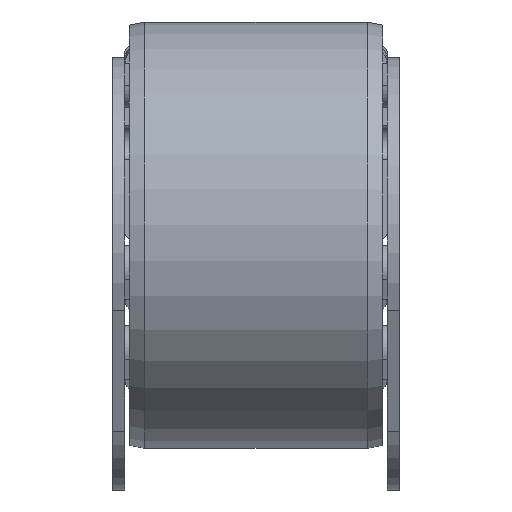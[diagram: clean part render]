
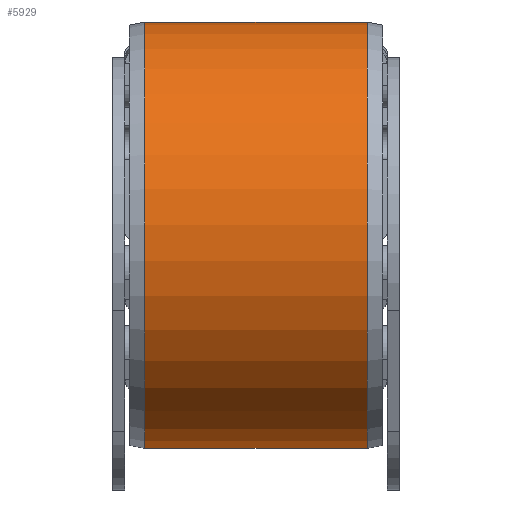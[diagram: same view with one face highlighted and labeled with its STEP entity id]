
A CAD part, front view. The second image highlights one B-rep face of the part: STEP entity #5929.
In plain terms, the highlighted cylindrical face has radius 70 mm (diameter 140 mm), a partial arc.
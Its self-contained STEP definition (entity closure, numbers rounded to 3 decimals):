
#163=CYLINDRICAL_SURFACE('',#6488,70.);
#737=CIRCLE('',#6486,70.);
#739=CIRCLE('',#6489,70.);
#1021=FACE_OUTER_BOUND('',#1371,.T.);
#1371=EDGE_LOOP('',(#5262,#5263,#5264,#5265));
#1901=LINE('',#9775,#2441);
#1909=LINE('',#9801,#2449);
#2441=VECTOR('',#8020,10.);
#2449=VECTOR('',#8048,10.);
#2982=VERTEX_POINT('',#9767);
#2984=VERTEX_POINT('',#9773);
#2990=VERTEX_POINT('',#9793);
#2992=VERTEX_POINT('',#9799);
#3769=EDGE_CURVE('',#2982,#2984,#1901,.T.);
#3778=EDGE_CURVE('',#2990,#2982,#737,.T.);
#3781=EDGE_CURVE('',#2992,#2984,#739,.T.);
#3782=EDGE_CURVE('',#2990,#2992,#1909,.T.);
#5262=ORIENTED_EDGE('',*,*,#3769,.T.);
#5263=ORIENTED_EDGE('',*,*,#3781,.F.);
#5264=ORIENTED_EDGE('',*,*,#3782,.F.);
#5265=ORIENTED_EDGE('',*,*,#3778,.T.);
#5929=ADVANCED_FACE('',(#1021),#163,.T.);
#6486=AXIS2_PLACEMENT_3D('',#9794,#8039,#8040);
#6488=AXIS2_PLACEMENT_3D('',#9798,#8044,#8045);
#6489=AXIS2_PLACEMENT_3D('',#9800,#8046,#8047);
#8020=DIRECTION('',(1.,0.,0.));
#8039=DIRECTION('center_axis',(1.,0.,0.));
#8040=DIRECTION('ref_axis',(0.,0.,
1.));
#8044=DIRECTION('center_axis',(1.,0.,0.));
#8045=DIRECTION('ref_axis',(0.,-0.979,-0.204));
#8046=DIRECTION('center_axis',(1.,0.,0.));
#8047=DIRECTION('ref_axis',(0.,0.,
1.));
#8048=DIRECTION('',(1.,0.,0.));
#9767=CARTESIAN_POINT('',(-79.5,-582.88,-134.194));
#9773=CARTESIAN_POINT('',(-6.5,-582.88,-134.194));
#9775=CARTESIAN_POINT('',(-6.5,-582.88,-134.194));
#9793=CARTESIAN_POINT('',(-79.5,-610.792,0.));
#9794=CARTESIAN_POINT('Origin',(-79.5,-610.792,-70.));
#9798=CARTESIAN_POINT('Origin',(-43.,-610.792,-70.));
#9799=CARTESIAN_POINT('',(-6.5,-610.792,0.));
#9800=CARTESIAN_POINT('Origin',(-6.5,-610.792,-70.));
#9801=CARTESIAN_POINT('',(-6.5,-610.792,0.));
